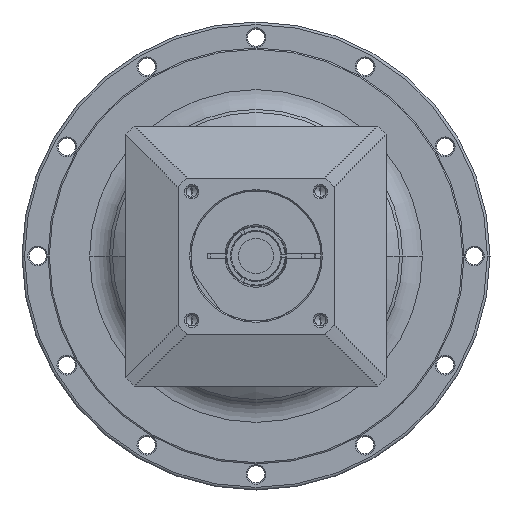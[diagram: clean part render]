
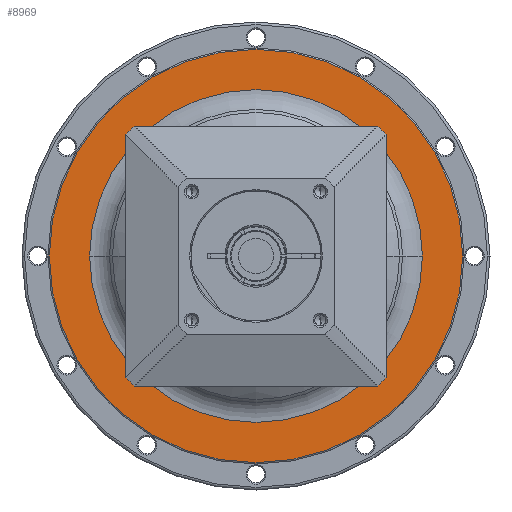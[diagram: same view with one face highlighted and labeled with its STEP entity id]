
A CAD part, left-side view. The second image highlights one B-rep face of the part: STEP entity #8969.
In plain terms, the highlighted planar face has unit normal (-1, 0, 0) as drawn and (1, 0, 0) by its records, which use the part's own axes.
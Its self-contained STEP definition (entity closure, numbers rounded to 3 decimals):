
#7928=CARTESIAN_POINT('',(-17.,0.,0.));
#7929=DIRECTION('',(1.,0.,0.));
#7930=DIRECTION('',(0.,1.,0.));
#7931=AXIS2_PLACEMENT_3D('',#7928,#7929,#7930);
#7933=CARTESIAN_POINT('',(-17.,0.,0.));
#7934=DIRECTION('',(1.,0.,0.));
#7935=DIRECTION('',(0.,-1.,0.));
#7936=AXIS2_PLACEMENT_3D('',#7933,#7934,#7935);
#7938=CARTESIAN_POINT('',(-17.,0.,0.));
#7939=DIRECTION('',(-1.,0.,0.));
#7940=DIRECTION('',(0.,-1.,0.));
#7941=AXIS2_PLACEMENT_3D('',#7938,#7939,#7940);
#7943=CARTESIAN_POINT('',(-17.,0.,0.));
#7944=DIRECTION('',(-1.,0.,0.));
#7945=DIRECTION('',(0.,1.,0.));
#7946=AXIS2_PLACEMENT_3D('',#7943,#7944,#7945);
#8250=CARTESIAN_POINT('',(-17.,-79.5,0.));
#8251=CARTESIAN_POINT('',(-17.,79.5,0.));
#8252=VERTEX_POINT('',#8250);
#8253=VERTEX_POINT('',#8251);
#8364=CARTESIAN_POINT('',(-17.,64.,0.));
#8365=VERTEX_POINT('',#8364);
#8366=CARTESIAN_POINT('',(-17.,-64.,0.));
#8367=VERTEX_POINT('',#8366);
#8954=CARTESIAN_POINT('',(-17.,0.,0.));
#8955=DIRECTION('',(1.,0.,0.));
#8956=DIRECTION('',(0.,-1.,0.));
#8957=AXIS2_PLACEMENT_3D('',#8954,#8955,#8956);
#8958=PLANE('',#8957);
#8959=ORIENTED_EDGE('',*,*,#8910,.T.);
#8960=ORIENTED_EDGE('',*,*,#8895,.T.);
#8961=EDGE_LOOP('',(#8959,#8960));
#8962=FACE_OUTER_BOUND('',#8961,.F.);
#8964=ORIENTED_EDGE('',*,*,#8963,.T.);
#8966=ORIENTED_EDGE('',*,*,#8965,.T.);
#8967=EDGE_LOOP('',(#8964,#8966));
#8968=FACE_BOUND('',#8967,.F.);
#8969=ADVANCED_FACE('',(#8962,#8968),#8958,.T.);
#7932=CIRCLE('',#7931,64.);
#7937=CIRCLE('',#7936,64.);
#7942=CIRCLE('',#7941,79.5);
#7947=CIRCLE('',#7946,79.5);
#8895=EDGE_CURVE('',#8253,#8252,#7947,.T.);
#8910=EDGE_CURVE('',#8252,#8253,#7942,.T.);
#8963=EDGE_CURVE('',#8365,#8367,#7932,.T.);
#8965=EDGE_CURVE('',#8367,#8365,#7937,.T.);
